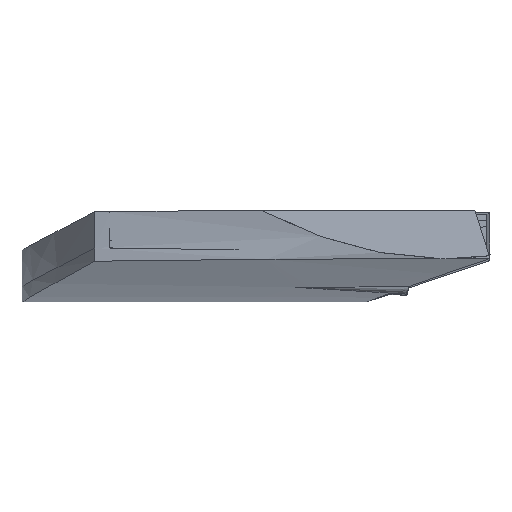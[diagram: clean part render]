
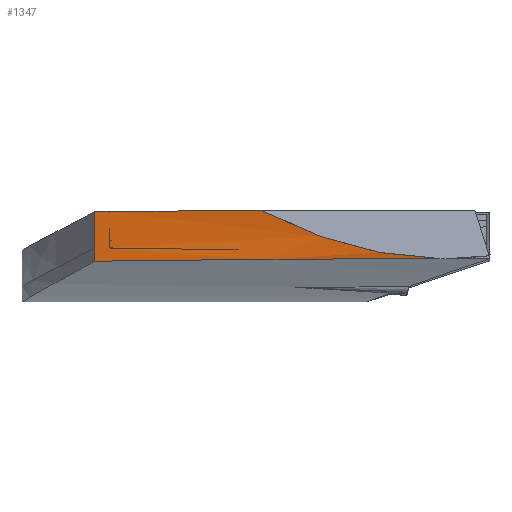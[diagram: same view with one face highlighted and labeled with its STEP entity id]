
A CAD part, top view. The second image highlights one B-rep face of the part: STEP entity #1347.
In plain terms, the highlighted cylindrical face has radius 500 mm (diameter 1000 mm), a partial arc.
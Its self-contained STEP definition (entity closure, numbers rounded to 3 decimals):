
#12 = CARTESIAN_POINT ( 'NONE',  ( -27.087, 7.77, 214.731 ) ) ;
#60 = CARTESIAN_POINT ( 'NONE',  ( -25.307, 7.794, 214.932 ) ) ;
#65 = CARTESIAN_POINT ( 'NONE',  ( -8.785, 7.971, 216.563 ) ) ;
#71 = CARTESIAN_POINT ( 'NONE',  ( -25.307, 4.727, 214.932 ) ) ;
#95 = B_SPLINE_CURVE_WITH_KNOTS ( 'NONE', 3,
 ( #1090, #341, #12, #1286, #182, #1505, #356, #1679, #544, #1859 ),
 .UNSPECIFIED., .F., .F.,
 ( 4, 3, 3, 4 ),
 ( 0., 0.001, 0.002, 0.003 ),
 .UNSPECIFIED. ) ;
#174 = EDGE_CURVE ( 'NONE', #2071, #1344, #1034, .T. ) ;
#182 = CARTESIAN_POINT ( 'NONE',  ( -26.42, 7.779, 214.807 ) ) ;
#341 = CARTESIAN_POINT ( 'NONE',  ( -27.532, 7.764, 214.679 ) ) ;
#356 = CARTESIAN_POINT ( 'NONE',  ( -25.974, 7.785, 214.857 ) ) ;
#368 = CYLINDRICAL_SURFACE ( 'NONE', #1687, 500. ) ;
#379 = CARTESIAN_POINT ( 'NONE',  ( 30., -21.026, -282. ) ) ;
#388 = DIRECTION ( 'NONE',  ( 0., 1., 0. ) ) ;
#399 = CARTESIAN_POINT ( 'NONE',  ( 19.639, -0.002, 217.984 ) ) ;
#413 = CARTESIAN_POINT ( 'NONE',  ( -8.975, -0.183, 216.57 ) ) ;
#429 = FACE_OUTER_BOUND ( 'NONE', #1387, .T. ) ;
#464 = VERTEX_POINT ( 'NONE', #1065 ) ;
#538 = VECTOR ( 'NONE', #2271, 1000. ) ;
#544 = CARTESIAN_POINT ( 'NONE',  ( -25.529, 7.791, 214.907 ) ) ;
#552 = CARTESIAN_POINT ( 'NONE',  ( 29.189, 0., 217.999 ) ) ;
#572 = LINE ( 'NONE', #1918, #538 ) ;
#580 = CARTESIAN_POINT ( 'NONE',  ( -27.977, -0.428, 214.627 ) ) ;
#593 = EDGE_CURVE ( 'NONE', #1154, #2071, #1212, .T. ) ;
#603 = CARTESIAN_POINT ( 'NONE',  ( -27.977, -0.428, 214.627 ) ) ;
#681 = EDGE_CURVE ( 'NONE', #1178, #1344, #798, .T. ) ;
#685 = VECTOR ( 'NONE', #388, 1000. ) ;
#786 = LINE ( 'NONE', #1320, #685 ) ;
#798 =( BOUNDED_CURVE ( )  B_SPLINE_CURVE ( 3, ( #552, #1698, #960, #2239 ),
 .UNSPECIFIED., .F., .T. ) 
 B_SPLINE_CURVE_WITH_KNOTS ( ( 4, 4 ),
 ( 3.143, 3.203 ),
 .UNSPECIFIED. ) 
 CURVE ( )  GEOMETRIC_REPRESENTATION_ITEM ( )  RATIONAL_B_SPLINE_CURVE ( ( 1., 1., 1., 1. ) ) 
 REPRESENTATION_ITEM ( '' )  );
#960 = CARTESIAN_POINT ( 'NONE',  ( 9.386, 2.819, 217.673 ) ) ;
#990 = CARTESIAN_POINT ( 'NONE',  ( 29.189, 0., 217.999 ) ) ;
#1000 = EDGE_CURVE ( 'NONE', #464, #1222, #786, .T. ) ;
#1011 = VERTEX_POINT ( 'NONE', #580 ) ;
#1034 =( BOUNDED_CURVE ( )  B_SPLINE_CURVE ( 3, ( #1164, #1911, #65, #1351 ),
 .UNSPECIFIED., .F., .T. ) 
 B_SPLINE_CURVE_WITH_KNOTS ( ( 4, 4 ),
 ( 6.172, 6.222 ),
 .UNSPECIFIED. ) 
 CURVE ( )  GEOMETRIC_REPRESENTATION_ITEM ( )  RATIONAL_B_SPLINE_CURVE ( ( 1., 1., 1., 1. ) ) 
 REPRESENTATION_ITEM ( '' )  );
#1065 = CARTESIAN_POINT ( 'NONE',  ( -27.977, 1.758, 214.627 ) ) ;
#1090 = CARTESIAN_POINT ( 'NONE',  ( -27.977, 7.758, 214.627 ) ) ;
#1117 = DIRECTION ( 'NONE',  ( 0., 1., 0. ) ) ;
#1154 = VERTEX_POINT ( 'NONE', #60 ) ;
#1158 = EDGE_CURVE ( 'NONE', #1178, #1011, #1981, .T. ) ;
#1164 = CARTESIAN_POINT ( 'NONE',  ( -25.307, 7.752, 214.932 ) ) ;
#1176 = EDGE_CURVE ( 'NONE', #1011, #464, #572, .T. ) ;
#1178 = VERTEX_POINT ( 'NONE', #990 ) ;
#1209 = VECTOR ( 'NONE', #1586, 1000. ) ;
#1212 = LINE ( 'NONE', #71, #1209 ) ;
#1222 = VERTEX_POINT ( 'NONE', #1769 ) ;
#1286 = CARTESIAN_POINT ( 'NONE',  ( -26.642, 7.776, 214.781 ) ) ;
#1307 = DIRECTION ( 'NONE',  ( 0., 0., 1. ) ) ;
#1320 = CARTESIAN_POINT ( 'NONE',  ( -27.977, 4.758, 214.627 ) ) ;
#1343 = CARTESIAN_POINT ( 'NONE',  ( 29.189, 0., 217.999 ) ) ;
#1344 = VERTEX_POINT ( 'NONE', #1705 ) ;
#1347 = ADVANCED_FACE ( 'NONE', ( #429 ), #368, .T. ) ;
#1351 = CARTESIAN_POINT ( 'NONE',  ( -0.499, 8.04, 217.069 ) ) ;
#1387 = EDGE_LOOP ( 'NONE', ( #1652, #1655, #1674, #1676, #1774, #1785, #1885 ) ) ;
#1457 = CARTESIAN_POINT ( 'NONE',  ( -25.307, 7.752, 214.932 ) ) ;
#1505 = CARTESIAN_POINT ( 'NONE',  ( -26.197, 7.782, 214.832 ) ) ;
#1573 = CARTESIAN_POINT ( 'NONE',  ( 10.088, -0.04, 217.695 ) ) ;
#1586 = DIRECTION ( 'NONE',  ( 0., -1., 0. ) ) ;
#1652 = ORIENTED_EDGE ( 'NONE', *, *, #1158, .F. ) ;
#1655 = ORIENTED_EDGE ( 'NONE', *, *, #681, .T. ) ;
#1674 = ORIENTED_EDGE ( 'NONE', *, *, #174, .F. ) ;
#1676 = ORIENTED_EDGE ( 'NONE', *, *, #593, .F. ) ;
#1679 = CARTESIAN_POINT ( 'NONE',  ( -25.752, 7.788, 214.882 ) ) ;
#1687 = AXIS2_PLACEMENT_3D ( 'NONE', #379, #1117, #1307 ) ;
#1698 = CARTESIAN_POINT ( 'NONE',  ( 19.285, 0.139, 217.983 ) ) ;
#1705 = CARTESIAN_POINT ( 'NONE',  ( -0.499, 8.04, 217.069 ) ) ;
#1743 = CARTESIAN_POINT ( 'NONE',  ( -18.494, -0.29, 215.734 ) ) ;
#1769 = CARTESIAN_POINT ( 'NONE',  ( -27.977, 7.758, 214.627 ) ) ;
#1774 = ORIENTED_EDGE ( 'NONE', *, *, #2185, .F. ) ;
#1785 = ORIENTED_EDGE ( 'NONE', *, *, #1000, .F. ) ;
#1859 = CARTESIAN_POINT ( 'NONE',  ( -25.307, 7.794, 214.932 ) ) ;
#1885 = ORIENTED_EDGE ( 'NONE', *, *, #1176, .F. ) ;
#1911 = CARTESIAN_POINT ( 'NONE',  ( -17.056, 7.876, 215.85 ) ) ;
#1918 = CARTESIAN_POINT ( 'NONE',  ( -27.977, -5.513, 214.627 ) ) ;
#1981 = B_SPLINE_CURVE_WITH_KNOTS ( 'NONE', 3,
 ( #1343, #399, #1573, #413, #1743, #603 ),
 .UNSPECIFIED., .F., .F.,
 ( 4, 2, 4 ),
 ( 0.009, 0.037, 0.066 ),
 .UNSPECIFIED. ) ;
#2071 = VERTEX_POINT ( 'NONE', #1457 ) ;
#2185 = EDGE_CURVE ( 'NONE', #1222, #1154, #95, .T. ) ;
#2239 = CARTESIAN_POINT ( 'NONE',  ( -0.499, 8.04, 217.069 ) ) ;
#2271 = DIRECTION ( 'NONE',  ( 0., 1., 0. ) ) ;
